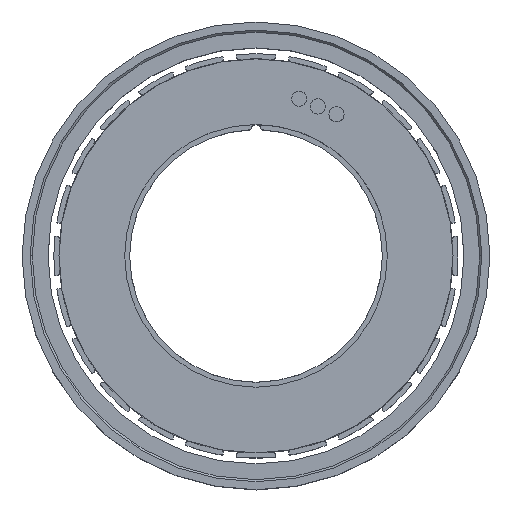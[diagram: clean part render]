
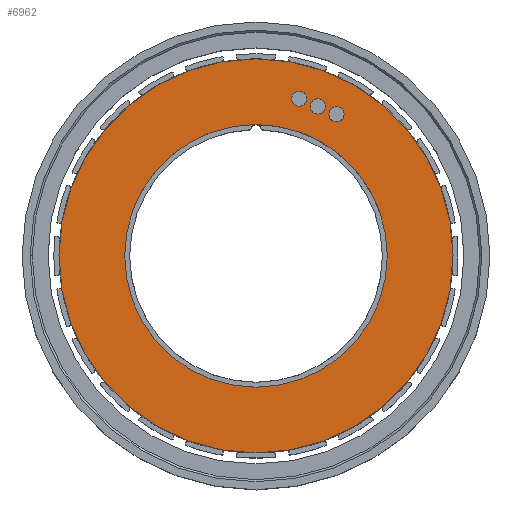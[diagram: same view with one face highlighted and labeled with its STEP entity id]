
A CAD part, top view. The second image highlights one B-rep face of the part: STEP entity #6962.
In plain terms, the highlighted planar face has unit normal (0, 0, 1).
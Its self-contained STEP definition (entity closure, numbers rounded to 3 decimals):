
#37 = AXIS2_PLACEMENT_3D ( 'NONE', #6594, #5379, #5219 ) ;
#298 = CIRCLE ( 'NONE', #5237, 0.75 ) ;
#588 = CARTESIAN_POINT ( 'NONE',  ( 536.889, 151.528, 11. ) ) ;
#589 = CIRCLE ( 'NONE', #3708, 19.5 ) ;
#615 = EDGE_CURVE ( 'NONE', #870, #14658, #4229, .T. ) ;
#744 = DIRECTION ( 'NONE',  ( -1., 0., 0. ) ) ;
#779 = CARTESIAN_POINT ( 'NONE',  ( 537.237, 150.762, 11. ) ) ;
#856 = CIRCLE ( 'NONE', #2957, 13. ) ;
#870 = VERTEX_POINT ( 'NONE', #1306 ) ;
#1064 = CARTESIAN_POINT ( 'NONE',  ( 551.364, 135.98, 11. ) ) ;
#1109 = FACE_BOUND ( 'NONE', #14565, .T. ) ;
#1167 = CARTESIAN_POINT ( 'NONE',  ( 540.585, 149.997, 11. ) ) ;
#1274 = DIRECTION ( 'NONE',  ( -1., 0., 0. ) ) ;
#1306 = CARTESIAN_POINT ( 'NONE',  ( 538.737, 150.762, 11. ) ) ;
#1378 = CARTESIAN_POINT ( 'NONE',  ( 537.987, 150.762, 11. ) ) ;
#1420 = CARTESIAN_POINT ( 'NONE',  ( 518.864, 135.98, 11. ) ) ;
#1511 = DIRECTION ( 'NONE',  ( -1., 0., 0. ) ) ;
#1709 = CARTESIAN_POINT ( 'NONE',  ( 536.139, 151.528, 11. ) ) ;
#2003 = CARTESIAN_POINT ( 'NONE',  ( 535.389, 151.528, 11. ) ) ;
#2029 = AXIS2_PLACEMENT_3D ( 'NONE', #10152, #9993, #1274 ) ;
#2069 = VERTEX_POINT ( 'NONE', #1167 ) ;
#2420 = FACE_BOUND ( 'NONE', #6717, .T. ) ;
#2679 = CARTESIAN_POINT ( 'NONE',  ( 539.835, 149.997, 11. ) ) ;
#2760 = EDGE_CURVE ( 'NONE', #5006, #12195, #589, .T. ) ;
#2761 = CIRCLE ( 'NONE', #5862, 13. ) ;
#2859 = EDGE_CURVE ( 'NONE', #10773, #7240, #856, .T. ) ;
#2957 = AXIS2_PLACEMENT_3D ( 'NONE', #14038, #5260, #3062 ) ;
#3062 = DIRECTION ( 'NONE',  ( -1., 0., 0. ) ) ;
#3164 = ORIENTED_EDGE ( 'NONE', *, *, #8246, .T. ) ;
#3382 = CARTESIAN_POINT ( 'NONE',  ( 512.364, 135.98, 11. ) ) ;
#3597 = DIRECTION ( 'NONE',  ( 0., 0., 1. ) ) ;
#3708 = AXIS2_PLACEMENT_3D ( 'NONE', #9508, #14368, #13316 ) ;
#3905 = DIRECTION ( 'NONE',  ( -1., 0., 0. ) ) ;
#4229 = CIRCLE ( 'NONE', #6828, 0.75 ) ;
#4861 = FACE_BOUND ( 'NONE', #14765, .T. ) ;
#5006 = VERTEX_POINT ( 'NONE', #1064 ) ;
#5219 = DIRECTION ( 'NONE',  ( -1., 0., 0. ) ) ;
#5237 = AXIS2_PLACEMENT_3D ( 'NONE', #6275, #3597, #11085 ) ;
#5260 = DIRECTION ( 'NONE',  ( 0., 0., -1. ) ) ;
#5379 = DIRECTION ( 'NONE',  ( 0., 0., 1. ) ) ;
#5456 = DIRECTION ( 'NONE',  ( 0., 0., 1. ) ) ;
#5670 = CIRCLE ( 'NONE', #2029, 19.5 ) ;
#5718 = CARTESIAN_POINT ( 'NONE',  ( 531.864, 135.98, 11. ) ) ;
#5862 = AXIS2_PLACEMENT_3D ( 'NONE', #5718, #14494, #744 ) ;
#5899 = CARTESIAN_POINT ( 'NONE',  ( 544.864, 135.98, 11. ) ) ;
#5975 = VERTEX_POINT ( 'NONE', #588 ) ;
#6079 = FACE_BOUND ( 'NONE', #15835, .T. ) ;
#6275 = CARTESIAN_POINT ( 'NONE',  ( 539.835, 149.997, 11. ) ) ;
#6594 = CARTESIAN_POINT ( 'NONE',  ( 536.139, 151.528, 11. ) ) ;
#6717 = EDGE_LOOP ( 'NONE', ( #3164, #9373 ) ) ;
#6828 = AXIS2_PLACEMENT_3D ( 'NONE', #15253, #12665, #1511 ) ;
#6962 = ADVANCED_FACE ( 'NONE', ( #1109, #6079, #4861, #2420, #7387 ), #8289, .F. ) ;
#7185 = AXIS2_PLACEMENT_3D ( 'NONE', #8777, #12603, #10078 ) ;
#7203 = ORIENTED_EDGE ( 'NONE', *, *, #11697, .F. ) ;
#7240 = VERTEX_POINT ( 'NONE', #5899 ) ;
#7387 = FACE_OUTER_BOUND ( 'NONE', #13054, .T. ) ;
#7653 = DIRECTION ( 'NONE',  ( -1., 0., 0. ) ) ;
#7729 = DIRECTION ( 'NONE',  ( 0., 0., 1. ) ) ;
#8246 = EDGE_CURVE ( 'NONE', #7240, #10773, #2761, .T. ) ;
#8250 = ORIENTED_EDGE ( 'NONE', *, *, #8587, .F. ) ;
#8289 = PLANE ( 'NONE',  #7185 ) ;
#8420 = EDGE_CURVE ( 'NONE', #2069, #12453, #298, .T. ) ;
#8587 = EDGE_CURVE ( 'NONE', #13498, #5975, #15618, .T. ) ;
#8777 = CARTESIAN_POINT ( 'NONE',  ( 531.864, 135.98, 11. ) ) ;
#8912 = CIRCLE ( 'NONE', #10211, 0.75 ) ;
#9036 = EDGE_CURVE ( 'NONE', #14658, #870, #8912, .T. ) ;
#9094 = CIRCLE ( 'NONE', #10380, 0.75 ) ;
#9278 = ORIENTED_EDGE ( 'NONE', *, *, #13571, .F. ) ;
#9373 = ORIENTED_EDGE ( 'NONE', *, *, #2859, .T. ) ;
#9508 = CARTESIAN_POINT ( 'NONE',  ( 531.864, 135.98, 11. ) ) ;
#9671 = ORIENTED_EDGE ( 'NONE', *, *, #615, .F. ) ;
#9993 = DIRECTION ( 'NONE',  ( 0., 0., -1. ) ) ;
#10019 = DIRECTION ( 'NONE',  ( 0., 0., 1. ) ) ;
#10078 = DIRECTION ( 'NONE',  ( -1., 0., 0. ) ) ;
#10152 = CARTESIAN_POINT ( 'NONE',  ( 531.864, 135.98, 11. ) ) ;
#10211 = AXIS2_PLACEMENT_3D ( 'NONE', #1378, #10019, #3905 ) ;
#10380 = AXIS2_PLACEMENT_3D ( 'NONE', #1709, #5456, #12947 ) ;
#10773 = VERTEX_POINT ( 'NONE', #1420 ) ;
#10809 = ORIENTED_EDGE ( 'NONE', *, *, #8420, .F. ) ;
#10810 = ORIENTED_EDGE ( 'NONE', *, *, #9036, .F. ) ;
#11085 = DIRECTION ( 'NONE',  ( -1., 0., 0. ) ) ;
#11197 = CIRCLE ( 'NONE', #13783, 0.75 ) ;
#11697 = EDGE_CURVE ( 'NONE', #12453, #2069, #11197, .T. ) ;
#12195 = VERTEX_POINT ( 'NONE', #3382 ) ;
#12334 = ORIENTED_EDGE ( 'NONE', *, *, #12917, .F. ) ;
#12453 = VERTEX_POINT ( 'NONE', #14933 ) ;
#12603 = DIRECTION ( 'NONE',  ( 0., 0., -1. ) ) ;
#12665 = DIRECTION ( 'NONE',  ( 0., 0., 1. ) ) ;
#12917 = EDGE_CURVE ( 'NONE', #5975, #13498, #9094, .T. ) ;
#12947 = DIRECTION ( 'NONE',  ( -1., 0., 0. ) ) ;
#13054 = EDGE_LOOP ( 'NONE', ( #13283, #9278 ) ) ;
#13283 = ORIENTED_EDGE ( 'NONE', *, *, #2760, .F. ) ;
#13316 = DIRECTION ( 'NONE',  ( -1., 0., 0. ) ) ;
#13498 = VERTEX_POINT ( 'NONE', #2003 ) ;
#13571 = EDGE_CURVE ( 'NONE', #12195, #5006, #5670, .T. ) ;
#13783 = AXIS2_PLACEMENT_3D ( 'NONE', #2679, #7729, #7653 ) ;
#14038 = CARTESIAN_POINT ( 'NONE',  ( 531.864, 135.98, 11. ) ) ;
#14368 = DIRECTION ( 'NONE',  ( 0., 0., -1. ) ) ;
#14494 = DIRECTION ( 'NONE',  ( 0., 0., -1. ) ) ;
#14565 = EDGE_LOOP ( 'NONE', ( #7203, #10809 ) ) ;
#14658 = VERTEX_POINT ( 'NONE', #779 ) ;
#14765 = EDGE_LOOP ( 'NONE', ( #10810, #9671 ) ) ;
#14933 = CARTESIAN_POINT ( 'NONE',  ( 539.085, 149.997, 11. ) ) ;
#15253 = CARTESIAN_POINT ( 'NONE',  ( 537.987, 150.762, 11. ) ) ;
#15618 = CIRCLE ( 'NONE', #37, 0.75 ) ;
#15835 = EDGE_LOOP ( 'NONE', ( #8250, #12334 ) ) ;
